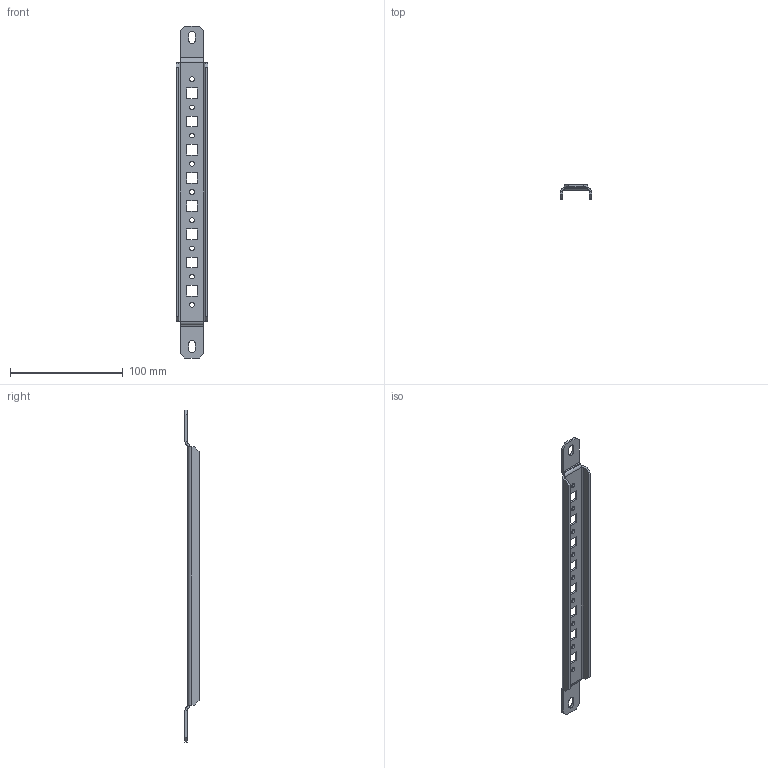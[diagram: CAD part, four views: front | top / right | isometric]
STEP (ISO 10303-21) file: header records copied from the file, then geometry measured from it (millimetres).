
FILE_DESCRIPTION (( 'STEP AP203' ), '1' );
FILE_NAME ('VB 40 GE Ðåéêà äëÿ ãëóõîé äâåðè v2.STEP', '2021-07-07T13:52:45', ( '' ), ( '' ), 'SwSTEP 2.0', 'SolidWorks 2018', '' );
FILE_SCHEMA (( 'CONFIG_CONTROL_DESIGN' ));
Length unit declared in the file: millimetre
Products named in the file (1): VB 40 GE Ðåéêà äëÿ ãëóõîé äâåðè v2
Bounding box: 27.5 x 12.42 x 294.31 mm (x, y, z)
Volume: 19633.6 mm3; surface area: 21906.5 mm2
Topology: 1 solids, 1 shells, 126 faces, 324 edges, 200 vertices
Faces by surface type: plane 90, cylinder 36
Entity records: 3909 total; most frequent: CARTESIAN_POINT 651, DIRECTION 650, ORIENTED_EDGE 648, EDGE_CURVE 324, VECTOR 252, LINE 252, VERTEX_POINT 200, AXIS2_PLACEMENT_3D 199
